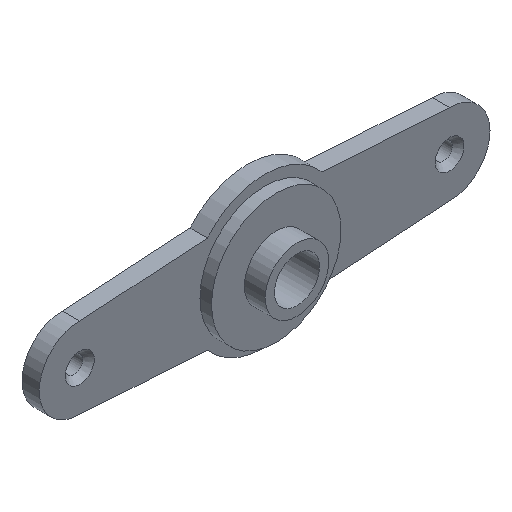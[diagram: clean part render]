
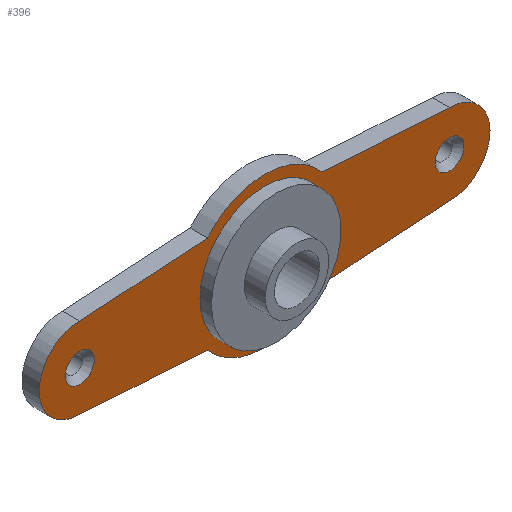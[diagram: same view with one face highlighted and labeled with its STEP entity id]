
A CAD part, isometric view. The second image highlights one B-rep face of the part: STEP entity #396.
In plain terms, the highlighted planar face has unit normal (0, -1, 0).
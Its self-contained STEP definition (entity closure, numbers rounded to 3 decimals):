
#29=LINE('',#670,#55);
#32=LINE('',#678,#58);
#34=LINE('',#689,#60);
#35=LINE('',#692,#61);
#55=VECTOR('',#548,10.);
#58=VECTOR('',#557,10.);
#60=VECTOR('',#569,10.);
#61=VECTOR('',#572,10.);
#89=FACE_BOUND('',#142,.T.);
#90=FACE_BOUND('',#143,.T.);
#91=FACE_BOUND('',#144,.T.);
#108=FACE_OUTER_BOUND('',#141,.T.);
#141=EDGE_LOOP('',(#326,#327,#328,#329,#330,#331,#332,#333));
#142=EDGE_LOOP('',(#334));
#143=EDGE_LOOP('',(#335));
#144=EDGE_LOOP('',(#336));
#164=CIRCLE('',#439,5.6);
#171=CIRCLE('',#449,6.5);
#172=CIRCLE('',#452,3.5);
#173=CIRCLE('',#455,1.25);
#175=CIRCLE('',#458,6.5);
#176=CIRCLE('',#459,3.5);
#177=CIRCLE('',#460,1.25);
#190=VERTEX_POINT('',#635);
#201=VERTEX_POINT('',#662);
#202=VERTEX_POINT('',#664);
#203=VERTEX_POINT('',#668);
#204=VERTEX_POINT('',#672);
#205=VERTEX_POINT('',#676);
#206=VERTEX_POINT('',#680);
#208=VERTEX_POINT('',#686);
#209=VERTEX_POINT('',#688);
#210=VERTEX_POINT('',#690);
#211=VERTEX_POINT('',#693);
#228=EDGE_CURVE('',#190,#190,#164,.T.);
#241=EDGE_CURVE('',#201,#202,#171,.T.);
#244=EDGE_CURVE('',#201,#203,#29,.T.);
#246=EDGE_CURVE('',#203,#204,#172,.T.);
#248=EDGE_CURVE('',#204,#205,#32,.T.);
#249=EDGE_CURVE('',#206,#206,#173,.T.);
#252=EDGE_CURVE('',#205,#208,#175,.T.);
#253=EDGE_CURVE('',#208,#209,#34,.T.);
#254=EDGE_CURVE('',#209,#210,#176,.T.);
#255=EDGE_CURVE('',#210,#202,#35,.T.);
#256=EDGE_CURVE('',#211,#211,#177,.T.);
#326=ORIENTED_EDGE('',*,*,#241,.F.);
#327=ORIENTED_EDGE('',*,*,#244,.T.);
#328=ORIENTED_EDGE('',*,*,#246,.T.);
#329=ORIENTED_EDGE('',*,*,#248,.T.);
#330=ORIENTED_EDGE('',*,*,#252,.T.);
#331=ORIENTED_EDGE('',*,*,#253,.T.);
#332=ORIENTED_EDGE('',*,*,#254,.T.);
#333=ORIENTED_EDGE('',*,*,#255,.T.);
#334=ORIENTED_EDGE('',*,*,#228,.F.);
#335=ORIENTED_EDGE('',*,*,#256,.F.);
#336=ORIENTED_EDGE('',*,*,#249,.F.);
#377=PLANE('',#457);
#396=ADVANCED_FACE('',(#108,#89,#90,#91),#377,.F.);
#439=AXIS2_PLACEMENT_3D('',#637,#516,#517);
#449=AXIS2_PLACEMENT_3D('',#665,#542,#543);
#452=AXIS2_PLACEMENT_3D('',#674,#552,#553);
#455=AXIS2_PLACEMENT_3D('',#681,#560,#561);
#457=AXIS2_PLACEMENT_3D('',#685,#565,#566);
#458=AXIS2_PLACEMENT_3D('',#687,#567,#568);
#459=AXIS2_PLACEMENT_3D('',#691,#570,#571);
#460=AXIS2_PLACEMENT_3D('',#694,#573,#574);
#516=DIRECTION('center_axis',(0.,-1.,0.));
#517=DIRECTION('ref_axis',(1.,0.,0.));
#542=DIRECTION('center_axis',(0.,1.,0.));
#543=DIRECTION('ref_axis',(0.,0.,1.));
#548=DIRECTION('',(0.998,0.,0.063));
#552=DIRECTION('center_axis',(0.,-1.,0.));
#553=DIRECTION('ref_axis',(0.,0.,-1.));
#557=DIRECTION('',(-0.998,0.,0.063));
#560=DIRECTION('center_axis',(0.,-1.,0.));
#561=DIRECTION('ref_axis',(0.,0.,1.));
#565=DIRECTION('center_axis',(0.,1.,0.));
#566=DIRECTION('ref_axis',(0.,0.,1.));
#567=DIRECTION('center_axis',(0.,-1.,0.));
#568=DIRECTION('ref_axis',(0.,0.,1.));
#569=DIRECTION('',(-0.998,0.,-0.063));
#570=DIRECTION('center_axis',(0.,-1.,0.));
#571=DIRECTION('ref_axis',(0.,0.,-1.));
#572=DIRECTION('',(0.998,0.,-0.063));
#573=DIRECTION('center_axis',(0.,-1.,0.));
#574=DIRECTION('ref_axis',(0.,0.,1.));
#635=CARTESIAN_POINT('',(-2.85,-41.5,11.008));
#637=CARTESIAN_POINT('Origin',(2.75,-41.5,11.008));
#662=CARTESIAN_POINT('',(7.714,-41.5,6.812));
#664=CARTESIAN_POINT('',(-2.214,-41.5,6.812));
#665=CARTESIAN_POINT('Origin',(2.75,-41.5,11.008));
#668=CARTESIAN_POINT('',(18.75,-41.5,7.508));
#670=CARTESIAN_POINT('',(8.133,-41.5,6.839));
#672=CARTESIAN_POINT('',(18.75,-41.5,14.508));
#674=CARTESIAN_POINT('Origin',(18.75,-41.5,11.008));
#676=CARTESIAN_POINT('',(7.714,-41.5,15.204));
#678=CARTESIAN_POINT('',(8.133,-41.5,15.178));
#680=CARTESIAN_POINT('',(18.75,-41.5,9.758));
#681=CARTESIAN_POINT('Origin',(18.75,-41.5,11.008));
#685=CARTESIAN_POINT('Origin',(2.75,-41.5,11.008));
#686=CARTESIAN_POINT('',(-2.214,-41.5,15.204));
#687=CARTESIAN_POINT('Origin',(2.75,-41.5,11.008));
#688=CARTESIAN_POINT('',(-13.25,-41.5,14.508));
#689=CARTESIAN_POINT('',(-2.633,-41.5,15.178));
#690=CARTESIAN_POINT('',(-13.25,-41.5,7.508));
#691=CARTESIAN_POINT('Origin',(-13.25,-41.5,11.008));
#692=CARTESIAN_POINT('',(-2.633,-41.5,6.839));
#693=CARTESIAN_POINT('',(-13.25,-41.5,9.758));
#694=CARTESIAN_POINT('Origin',(-13.25,-41.5,11.008));
